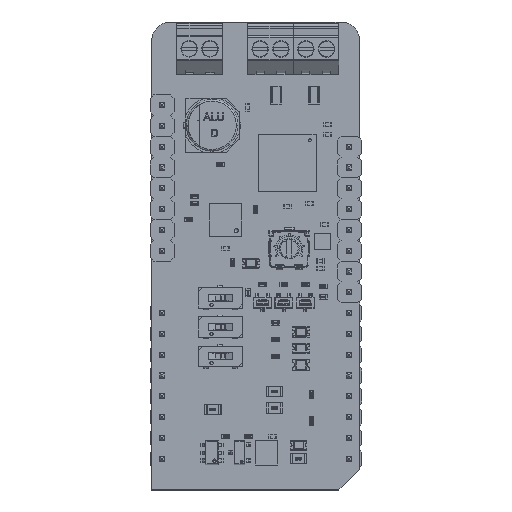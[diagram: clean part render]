
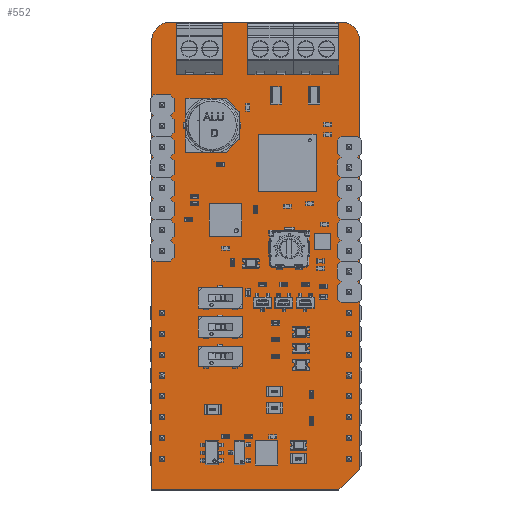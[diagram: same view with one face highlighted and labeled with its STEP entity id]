
A CAD part, top view. The second image highlights one B-rep face of the part: STEP entity #552.
In plain terms, the highlighted planar face has unit normal (0, 0, 1).
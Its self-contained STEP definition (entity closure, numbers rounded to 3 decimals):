
#323 = VERTEX_POINT('',#324);
#324 = CARTESIAN_POINT('',(-1.27,-3.81,0.));
#330 = EDGE_CURVE('',#323,#331,#333,.T.);
#331 = VERTEX_POINT('',#332);
#332 = CARTESIAN_POINT('',(-1.27,51.054,0.));
#333 = LINE('',#334,#335);
#334 = CARTESIAN_POINT('',(-1.27,-3.81,0.));
#335 = VECTOR('',#336,1.);
#336 = DIRECTION('',(0.,1.,0.));
#361 = EDGE_CURVE('',#331,#362,#364,.T.);
#362 = VERTEX_POINT('',#363);
#363 = CARTESIAN_POINT('',(1.016,53.34,0.));
#364 = CIRCLE('',#365,2.288);
#365 = AXIS2_PLACEMENT_3D('',#366,#367,#368);
#366 = CARTESIAN_POINT('',(1.018,51.052,0.));
#367 = DIRECTION('',(0.,0.,-1.));
#368 = DIRECTION('',(-1.,0.001,0.));
#394 = EDGE_CURVE('',#362,#395,#397,.T.);
#395 = VERTEX_POINT('',#396);
#396 = CARTESIAN_POINT('',(21.844,53.34,0.));
#397 = LINE('',#398,#399);
#398 = CARTESIAN_POINT('',(1.016,53.34,0.));
#399 = VECTOR('',#400,1.);
#400 = DIRECTION('',(1.,0.,0.));
#425 = EDGE_CURVE('',#395,#426,#428,.T.);
#426 = VERTEX_POINT('',#427);
#427 = CARTESIAN_POINT('',(24.13,51.054,0.));
#428 = CIRCLE('',#429,2.288);
#429 = AXIS2_PLACEMENT_3D('',#430,#431,#432);
#430 = CARTESIAN_POINT('',(21.842,51.052,0.));
#431 = DIRECTION('',(0.,0.,-1.));
#432 = DIRECTION('',(0.001,1.,0.));
#458 = EDGE_CURVE('',#426,#459,#461,.T.);
#459 = VERTEX_POINT('',#460);
#460 = CARTESIAN_POINT('',(24.13,-1.27,0.));
#461 = LINE('',#462,#463);
#462 = CARTESIAN_POINT('',(24.13,51.054,0.));
#463 = VECTOR('',#464,1.);
#464 = DIRECTION('',(0.,-1.,0.));
#489 = EDGE_CURVE('',#459,#490,#492,.T.);
#490 = VERTEX_POINT('',#491);
#491 = CARTESIAN_POINT('',(21.59,-3.81,0.));
#492 = LINE('',#493,#494);
#493 = CARTESIAN_POINT('',(24.13,-1.27,0.));
#494 = VECTOR('',#495,1.);
#495 = DIRECTION('',(-0.707,-0.707,0.));
#520 = EDGE_CURVE('',#490,#323,#521,.T.);
#521 = LINE('',#522,#523);
#522 = CARTESIAN_POINT('',(21.59,-3.81,0.));
#523 = VECTOR('',#524,1.);
#524 = DIRECTION('',(-1.,0.,0.));
#552 = ADVANCED_FACE('',(#553),#562,.T.);
#553 = FACE_BOUND('',#554,.F.);
#554 = EDGE_LOOP('',(#555,#556,#557,#558,#559,#560,#561));
#555 = ORIENTED_EDGE('',*,*,#330,.T.);
#556 = ORIENTED_EDGE('',*,*,#361,.T.);
#557 = ORIENTED_EDGE('',*,*,#394,.T.);
#558 = ORIENTED_EDGE('',*,*,#425,.T.);
#559 = ORIENTED_EDGE('',*,*,#458,.T.);
#560 = ORIENTED_EDGE('',*,*,#489,.T.);
#561 = ORIENTED_EDGE('',*,*,#520,.T.);
#562 = PLANE('',#563);
#563 = AXIS2_PLACEMENT_3D('',#564,#565,#566);
#564 = CARTESIAN_POINT('',(-1.27,-3.81,0.));
#565 = DIRECTION('',(0.,0.,1.));
#566 = DIRECTION('',(1.,0.,0.));
